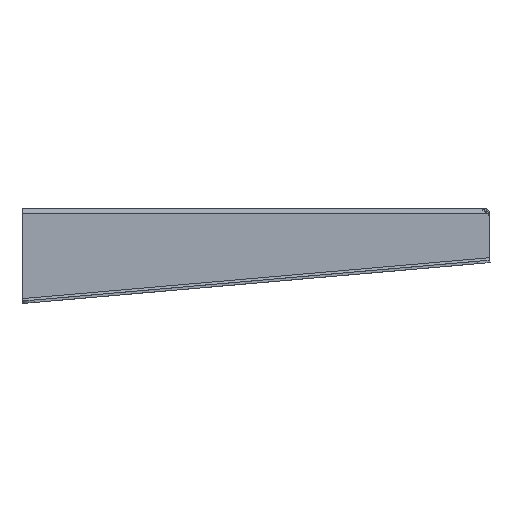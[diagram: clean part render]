
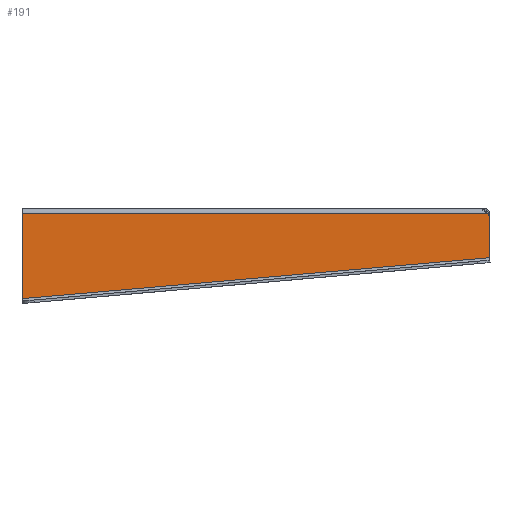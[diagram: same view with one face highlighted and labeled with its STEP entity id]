
A CAD part, left-side view. The second image highlights one B-rep face of the part: STEP entity #191.
In plain terms, the highlighted planar face has unit normal (-1, 0, 0).
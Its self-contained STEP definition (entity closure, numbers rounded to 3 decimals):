
#146 = CIRCLE ( 'NONE', #2861, 1. ) ;
#152 = CARTESIAN_POINT ( 'NONE',  ( -112.5, -95., 0. ) ) ;
#191 = ADVANCED_FACE ( 'NONE', ( #2850 ), #496, .F. ) ;
#211 = DIRECTION ( 'NONE',  ( 1., 0., 0. ) ) ;
#220 = LINE ( 'NONE', #152, #2299 ) ;
#369 = LINE ( 'NONE', #3067, #955 ) ;
#496 = PLANE ( 'NONE',  #3026 ) ;
#513 = LINE ( 'NONE', #2601, #1966 ) ;
#565 = ORIENTED_EDGE ( 'NONE', *, *, #2320, .F. ) ;
#587 = EDGE_CURVE ( 'NONE', #910, #1121, #2481, .T. ) ;
#616 = VECTOR ( 'NONE', #1635, 1000. ) ;
#681 = EDGE_CURVE ( 'NONE', #1820, #3382, #513, .T. ) ;
#814 = VERTEX_POINT ( 'NONE', #3029 ) ;
#910 = VERTEX_POINT ( 'NONE', #2968 ) ;
#955 = VECTOR ( 'NONE', #3046, 1000. ) ;
#986 = DIRECTION ( 'NONE',  ( -1., 0., 0. ) ) ;
#1121 = VERTEX_POINT ( 'NONE', #3421 ) ;
#1285 = CARTESIAN_POINT ( 'NONE',  ( -112.5, -95., -20. ) ) ;
#1377 = DIRECTION ( 'NONE',  ( 0., 0., -1. ) ) ;
#1451 = CARTESIAN_POINT ( 'NONE',  ( -112.5, -93.816, -2. ) ) ;
#1538 = ORIENTED_EDGE ( 'NONE', *, *, #2614, .T. ) ;
#1572 = CARTESIAN_POINT ( 'NONE',  ( -112.5, -95.121, -1.891 ) ) ;
#1635 = DIRECTION ( 'NONE',  ( 0., -0.996, 0.087 ) ) ;
#1683 = ORIENTED_EDGE ( 'NONE', *, *, #587, .T. ) ;
#1711 = EDGE_CURVE ( 'NONE', #3382, #814, #2302, .T. ) ;
#1713 = EDGE_LOOP ( 'NONE', ( #2397, #565, #2776, #3106, #1538, #1683 ) ) ;
#1820 = VERTEX_POINT ( 'NONE', #2975 ) ;
#1966 = VECTOR ( 'NONE', #2266, 1000. ) ;
#2149 = DIRECTION ( 'NONE',  ( 0., 0., 1. ) ) ;
#2266 = DIRECTION ( 'NONE',  ( 0., -1., 0. ) ) ;
#2299 = VECTOR ( 'NONE', #3073, 1000. ) ;
#2302 = LINE ( 'NONE', #3512, #3675 ) ;
#2320 = EDGE_CURVE ( 'NONE', #814, #2668, #146, .T. ) ;
#2377 = EDGE_CURVE ( 'NONE', #1121, #2668, #220, .T. ) ;
#2394 = DIRECTION ( 'NONE',  ( 0., -0.707, -0.707 ) ) ;
#2397 = ORIENTED_EDGE ( 'NONE', *, *, #2377, .T. ) ;
#2481 = LINE ( 'NONE', #1285, #616 ) ;
#2516 = CARTESIAN_POINT ( 'NONE',  ( -112.5, -95., -2.883 ) ) ;
#2601 = CARTESIAN_POINT ( 'NONE',  ( -112.5, -95., -2. ) ) ;
#2614 = EDGE_CURVE ( 'NONE', #1820, #910, #369, .T. ) ;
#2619 = CARTESIAN_POINT ( 'NONE',  ( -112.5, 0., 0. ) ) ;
#2668 = VERTEX_POINT ( 'NONE', #2516 ) ;
#2776 = ORIENTED_EDGE ( 'NONE', *, *, #1711, .F. ) ;
#2850 = FACE_OUTER_BOUND ( 'NONE', #1713, .T. ) ;
#2861 = AXIS2_PLACEMENT_3D ( 'NONE', #1572, #986, #2149 ) ;
#2968 = CARTESIAN_POINT ( 'NONE',  ( -112.5, 95., -36.623 ) ) ;
#2975 = CARTESIAN_POINT ( 'NONE',  ( -112.5, 95., -2. ) ) ;
#3026 = AXIS2_PLACEMENT_3D ( 'NONE', #2619, #211, #1377 ) ;
#3029 = CARTESIAN_POINT ( 'NONE',  ( -112.5, -94.414, -2.598 ) ) ;
#3046 = DIRECTION ( 'NONE',  ( 0., 0., -1. ) ) ;
#3067 = CARTESIAN_POINT ( 'NONE',  ( -112.5, 95., 0. ) ) ;
#3073 = DIRECTION ( 'NONE',  ( 0., 0., 1. ) ) ;
#3106 = ORIENTED_EDGE ( 'NONE', *, *, #681, .F. ) ;
#3382 = VERTEX_POINT ( 'NONE', #1451 ) ;
#3421 = CARTESIAN_POINT ( 'NONE',  ( -112.5, -95., -20. ) ) ;
#3512 = CARTESIAN_POINT ( 'NONE',  ( -112.5, -45.908, 45.908 ) ) ;
#3675 = VECTOR ( 'NONE', #2394, 1000. ) ;
